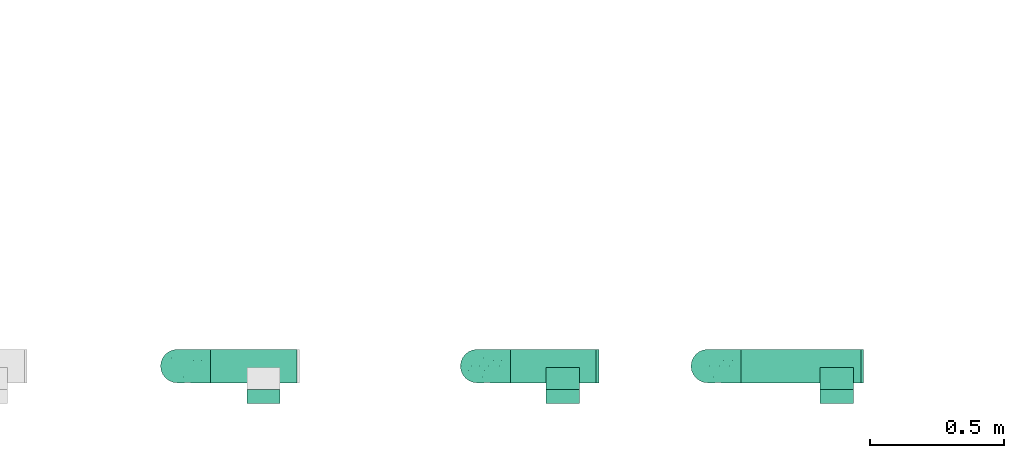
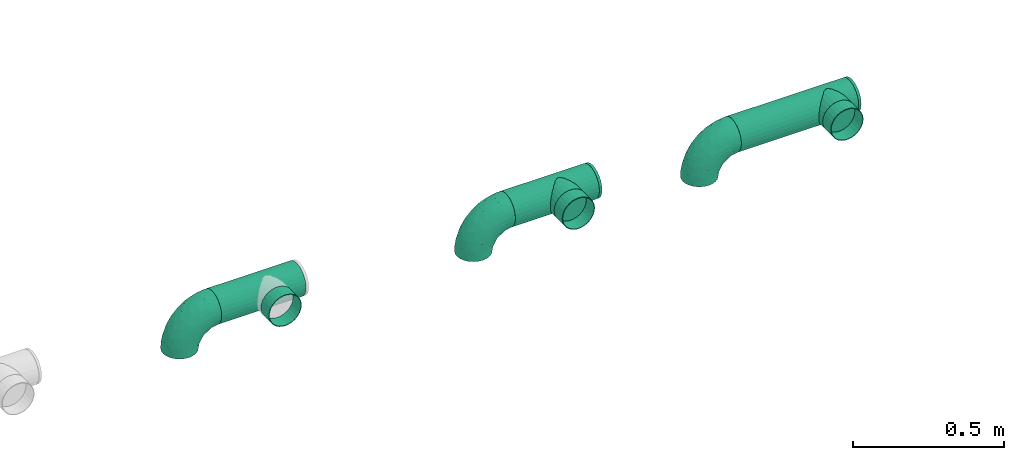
# One storey, part 7 of 63: 7 flow fittings, 6 flow segments.
"""IFC2X3 building model written with IfcOpenShell, lengths in millimetres."""

import ifcopenshell
import ifcopenshell.guid

model = None  # the IFC model being written
_history = None  # IfcOwnerHistory: only IFC2X3 demands one
_inside = {}  # id of a spatial element -> (the spatial element, [elements in it])
_under = {}  # id of a project, library or spatial element -> (it, [spatial elements below it])
_declared = {}  # id of a project -> (the project, [libraries it declares])
_typed = {}  # id of a type object -> (the type object, [elements of that type])
_made_of = {}  # id of a material, layer set ... -> (it, [elements and type objects made of it])


def new_model(schema):
    """Start an empty IFC model of exactly this schema.

    Asked for "IFC4X3", IfcOpenShell would pick the latest addendum, in which some entities
    have other attributes; the version numbers below select the first issue.
    IFC2X3 requires an IfcOwnerHistory on every rooted entity: one is made here for all.
    """
    global model, _history
    if schema == "IFC4X3":
        model = ifcopenshell.file(schema_version=(4, 3, 0, 0))
    else:
        model = ifcopenshell.file(schema=schema)
    _inside.clear()
    _under.clear()
    _declared.clear()
    _typed.clear()
    _made_of.clear()
    _history = None
    if model.schema == "IFC2X3":
        org = make("IfcOrganization", Name="unknown")
        user = make(
            "IfcPersonAndOrganization",
            ThePerson=make("IfcPerson", FamilyName="unknown"),
            TheOrganization=org,
        )
        app = make(
            "IfcApplication",
            ApplicationDeveloper=org,
            Version="unknown",
            ApplicationFullName="unknown",
            ApplicationIdentifier="unknown",
        )
        _history = make(
            "IfcOwnerHistory",
            OwningUser=user,
            OwningApplication=app,
            ChangeAction="ADDED",
            CreationDate=0,
        )
    return model


def make(cls, **values):
    """One entity of the class cls with the attributes given. An attribute that is None is left unset."""
    return model.create_entity(
        cls, **{name: value for name, value in values.items() if value is not None}
    )


def entity(cls, *values):
    """Any entity or typed value of the class cls, its attributes in the order of the schema. None: left unset."""
    e = model.create_entity(cls)
    for i, value in enumerate(values):
        if value is not None:
            e[i] = value
    return e


def rooted(cls, **values):
    """An entity with a GlobalId (a new one), such as an element, a storey or a relation."""
    return make(cls, GlobalId=ifcopenshell.guid.new(), OwnerHistory=_history, **values)


def si_unit(unit_type, name, prefix=None):
    """IfcSIUnit, for example si_unit("LENGTHUNIT", "METRE", prefix="MILLI")."""
    return make("IfcSIUnit", UnitType=unit_type, Prefix=prefix, Name=name)


def converted_unit(unit_type, name, factor, base, dimensions=None, offset=None):
    """IfcConversionBasedUnit, such as the inch: factor (a typed value) times the base unit."""
    return make(
        "IfcConversionBasedUnit"
        if offset is None
        else "IfcConversionBasedUnitWithOffset",
        ConversionOffset=offset,
        Dimensions=None
        if dimensions is None
        else entity("IfcDimensionalExponents", *dimensions),
        UnitType=unit_type,
        Name=name,
        ConversionFactor=make(
            "IfcMeasureWithUnit", ValueComponent=factor, UnitComponent=base
        ),
    )


def derived_unit(unit_type, elements):
    """IfcDerivedUnit: a product of units, each with its exponent."""
    return make(
        "IfcDerivedUnit",
        Elements=[
            make("IfcDerivedUnitElement", Unit=unit, Exponent=power)
            for unit, power in elements
        ],
        UnitType=unit_type,
    )


def assignment(units):
    """IfcUnitAssignment: the units of a project."""
    return None if units is None else make("IfcUnitAssignment", Units=units)


def point(xyz):
    """IfcCartesianPoint."""
    return None if xyz is None else make("IfcCartesianPoint", Coordinates=xyz)


def direction(xyz):
    """IfcDirection."""
    return None if xyz is None else make("IfcDirection", DirectionRatios=xyz)


def frame(location, z_axis=None, x_axis=None):
    """IfcAxis2Placement3D, a coordinate frame: its origin and axes. An axis left out is left unset."""
    return make(
        "IfcAxis2Placement3D",
        Location=point(location),
        Axis=direction(z_axis),
        RefDirection=direction(x_axis),
    )


def frame_2d(location, x_axis=None):
    """IfcAxis2Placement2D, a coordinate frame in the plane: its origin and x axis."""
    return make(
        "IfcAxis2Placement2D", Location=point(location), RefDirection=direction(x_axis)
    )


def origin_with_axes():
    """The frame at (0, 0, 0) with the z axis (0, 0, 1) and the x axis (1, 0, 0) written out."""
    return frame((0.0, 0.0, 0.0), z_axis=(0.0, 0.0, 1.0), x_axis=(1.0, 0.0, 0.0))


def origin_2d_with_axis():
    """The frame at (0, 0) in the plane with the x axis (1, 0) written out."""
    return frame_2d((0.0, 0.0), x_axis=(1.0, 0.0))


def place(relative_to, where):
    """IfcLocalPlacement: puts the frame where relative to a parent placement (None: the world)."""
    return make(
        "IfcLocalPlacement", PlacementRelTo=relative_to, RelativePlacement=where
    )


def context(
    kind, dimensions, precision=None, world=None, true_north=None, identifier=None
):
    """IfcGeometricRepresentationContext, for example the 3D "Model" context."""
    return make(
        "IfcGeometricRepresentationContext",
        ContextIdentifier=identifier,
        ContextType=kind,
        CoordinateSpaceDimension=dimensions,
        Precision=precision,
        WorldCoordinateSystem=world,
        TrueNorth=true_north,
    )


def subcontext(parent, identifier, kind, view, scale=None):
    """IfcGeometricRepresentationSubContext, for example "Body" below "Model"."""
    return make(
        "IfcGeometricRepresentationSubContext",
        ContextIdentifier=identifier,
        ContextType=kind,
        ParentContext=parent,
        TargetScale=scale,
        TargetView=view,
    )


def project(units=None, contexts=None):
    """IfcProject with its units and contexts."""
    return rooted(
        "IfcProject",
        Name="project",
        RepresentationContexts=contexts,
        UnitsInContext=assignment(units),
    )


def spatial(cls, under=None, at=None, **own):
    """A site, building, storey or space (cls), placed at a placement, below another one or the project."""
    s = rooted(cls, ObjectPlacement=at, **own)
    if under is not None:
        _under.setdefault(under.id(), (under, []))[1].append(s)
    return s


def profile(cls, at=None, kind="AREA", **sizes):
    """A parametric profile (cls). Its sizes go by their IFC names, for example OverallWidth=200.0."""
    return make(cls, ProfileType=kind, Position=at, **sizes)


def hollow_circle(**sizes):
    """IfcCircleHollowProfileDef."""
    return profile("IfcCircleHollowProfileDef", **sizes)


def extrude(swept, where, along, depth):
    """IfcExtrudedAreaSolid: the profile swept, set in the frame where, extruded along a direction by depth."""
    return make(
        "IfcExtrudedAreaSolid",
        SweptArea=swept,
        Position=where,
        ExtrudedDirection=direction(along),
        Depth=depth,
    )


def faces_of(points, faces, orient=None, outer=None):
    """IfcFace entities. A face is a list of loops; a loop is a list of indices into points, from 0.

    orient and outer hold one flag for each loop. By default every Orientation is true, the
    first loop of a face is its IfcFaceOuterBound and the others are IfcFaceBound.
    """
    made = []
    for i, loops in enumerate(faces):
        bounds = []
        for j, loop in enumerate(loops):
            is_outer = j == 0 if outer is None else outer[i][j]
            bounds.append(
                make(
                    "IfcFaceOuterBound" if is_outer else "IfcFaceBound",
                    Bound=make("IfcPolyLoop", Polygon=[points[k] for k in loop]),
                    Orientation=True if orient is None else orient[i][j],
                )
            )
        made.append(make("IfcFace", Bounds=bounds))
    return made


def open_shell(faces, orient=None, outer=None):
    """The faces of one IfcOpenShell. surface_model builds it on its shared points."""
    return ("IfcOpenShell", faces, orient, outer)


def surface_model(cls, points, shells):
    """IfcFaceBasedSurfaceModel or IfcShellBasedSurfaceModel (cls): surfaces that need not close."""
    shared = [point(p) for p in points]
    made = [make(c, CfsFaces=faces_of(shared, fs, o, b)) for c, fs, o, b in shells]
    if cls == "IfcFaceBasedSurfaceModel":
        return make(cls, FbsmFaces=made)
    return make(cls, SbsmBoundary=made)


def shape(context_of_items, identifier, shape_type, items):
    """IfcShapeRepresentation: the items that make up one representation, for example the "Body"."""
    return make(
        "IfcShapeRepresentation",
        ContextOfItems=context_of_items,
        RepresentationIdentifier=identifier,
        RepresentationType=shape_type,
        Items=items,
    )


def source(mapping_origin, context_of_items, identifier, shape_type, items):
    """IfcRepresentationMap: a shape defined once, which mapped items show again and again."""
    return make(
        "IfcRepresentationMap",
        MappingOrigin=mapping_origin,
        MappedRepresentation=shape(context_of_items, identifier, shape_type, items),
    )


def transform(
    local_origin,
    x_axis=None,
    y_axis=None,
    z_axis=None,
    scale=None,
    scale2=None,
    scale3=None,
    uniform=True,
):
    """IfcCartesianTransformationOperator3D, or its non-uniform kind. x_axis, y_axis, z_axis: its Axis1, 2, 3."""
    if uniform:
        return make(
            "IfcCartesianTransformationOperator3D",
            Axis1=direction(x_axis),
            Axis2=direction(y_axis),
            LocalOrigin=point(local_origin),
            Scale=scale,
            Axis3=direction(z_axis),
        )
    return make(
        "IfcCartesianTransformationOperator3DnonUniform",
        Axis1=direction(x_axis),
        Axis2=direction(y_axis),
        LocalOrigin=point(local_origin),
        Scale=scale,
        Axis3=direction(z_axis),
        Scale2=scale2,
        Scale3=scale3,
    )


def mapped(mapping_source, mapping_target):
    """IfcMappedItem: shows the shape of a source again, moved by a transform."""
    return make(
        "IfcMappedItem", MappingSource=mapping_source, MappingTarget=mapping_target
    )


def made_of(thing, what):
    """Note that an element or type object is made of a material, layer set ...; save() writes the relation."""
    if what is not None:
        _made_of.setdefault(what.id(), (what, []))[1].append(thing)
    return thing


def type_object(cls, material=None, **own):
    """A type object (cls), such as IfcWallType, which elements share."""
    return made_of(rooted(cls, **own), material)


def element(
    cls,
    number,
    at=None,
    inside=None,
    cuts=None,
    type_object=None,
    material=None,
    context=None,
    identifier="Body",
    shape_type=None,
    held_by="IfcProductDefinitionShape",
    body=None,
    shapes=None,
    **own,
):
    """One element of the class cls, such as IfcWall. Its Tag is "e" and its number.

    at: its placement. inside: the storey or other place that contains it. cuts: it is an
    opening in that element (IfcRelVoidsElement). A single representation is given by context,
    identifier, shape_type and body (its items); several are given by shapes. held_by: the class
    of the entity that holds the representations. save() writes the other relations.
    """
    e = rooted(cls, Tag="e%d" % number, ObjectPlacement=at, **own)
    if body is not None:
        shapes = [shape(context, identifier, shape_type, body)]
    if shapes is not None:
        e.Representation = make(held_by, Representations=shapes)
    if inside is not None:
        _inside.setdefault(inside.id(), (inside, []))[1].append(e)
    if cuts is not None:
        rooted(
            "IfcRelVoidsElement", RelatingBuildingElement=cuts, RelatedOpeningElement=e
        )
    if type_object is not None:
        _typed.setdefault(type_object.id(), (type_object, []))[1].append(e)
    return made_of(e, material)


def aggregate(whole, parts):
    """IfcRelAggregates: a whole, such as a stair, and the parts it consists of."""
    return rooted("IfcRelAggregates", RelatingObject=whole, RelatedObjects=parts)


def save(model, path):
    """Write the relations noted so far, then the file.

    IfcRelAggregates (storeys below a building ...), IfcRelContainedInSpatialStructure (elements
    in a storey), IfcRelDefinesByType, IfcRelAssociatesMaterial and IfcRelDeclares: one each for
    every whole, place, type object, material and project.
    """
    for whole, parts in _under.values():
        aggregate(whole, parts)
    for where, things in _inside.values():
        rooted(
            "IfcRelContainedInSpatialStructure",
            RelatedElements=things,
            RelatingStructure=where,
        )
    for kind, things in _typed.values():
        rooted("IfcRelDefinesByType", RelatedObjects=things, RelatingType=kind)
    for what, things in _made_of.values():
        rooted("IfcRelAssociatesMaterial", RelatedObjects=things, RelatingMaterial=what)
    for by, libraries in _declared.values():
        rooted("IfcRelDeclares", RelatingContext=by, RelatedDefinitions=libraries)
    model.write(path)


model = new_model("IFC2X3")

# Units and contexts
model_context = context("Model", 3, precision=0.01, world=frame((0.0, 4.29681676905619e-09, 0.0)), true_north=direction((4.01073788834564e-13, 1.0)))
plan_context = context("Plan", 3, precision=0.01, world=frame((0.0, 4.29681676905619e-09, 0.0)), true_north=direction((4.01073788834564e-13, 1.0)))
body_context = subcontext(model_context, "Body", "Model", "MODEL_VIEW")
ifc_project = project(units=[converted_unit("PLANEANGLEUNIT", "DEGREE", entity("IfcPositiveLengthMeasure", 0.0174532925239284), si_unit("PLANEANGLEUNIT", "RADIAN"), dimensions=[0, 0, 0, 0, 0, 0, 0]), si_unit("AREAUNIT", "SQUARE_METRE"), si_unit("LENGTHUNIT", "METRE", prefix="MILLI"), si_unit("MASSUNIT", "GRAM", prefix="KILO"), si_unit("POWERUNIT", "WATT"), si_unit("PRESSUREUNIT", "PASCAL"), si_unit("FORCEUNIT", "NEWTON", prefix="KILO"), si_unit("ELECTRICVOLTAGEUNIT", "VOLT"), si_unit("ELECTRICCURRENTUNIT", "AMPERE"), si_unit("THERMODYNAMICTEMPERATUREUNIT", "DEGREE_CELSIUS"), si_unit("TIMEUNIT", "SECOND"), si_unit("VOLUMEUNIT", "CUBIC_METRE"), derived_unit("LINEARVELOCITYUNIT", [(si_unit("LENGTHUNIT", "METRE"), 1), (si_unit("TIMEUNIT", "SECOND"), -1)]), derived_unit("VOLUMETRICFLOWRATEUNIT", [(si_unit("VOLUMEUNIT", "CUBIC_METRE"), 1), (si_unit("TIMEUNIT", "SECOND"), -1)]), derived_unit("THERMALTRANSMITTANCEUNIT", [(si_unit("POWERUNIT", "WATT"), 1), (si_unit("THERMODYNAMICTEMPERATUREUNIT", "KELVIN"), -1), (si_unit("AREAUNIT", "SQUARE_METRE"), -1)]), derived_unit("SOUNDPRESSUREUNIT", [(si_unit("PRESSUREUNIT", "PASCAL"), 1)])], contexts=[model_context, plan_context])

# Site, building, storey
site_placement = place(None, frame((0.0, -4.29681676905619e-09, 0.0), z_axis=(0.0, 0.0, 1.0), x_axis=(1.0, 0.0, 0.0)))
site = spatial("IfcSite", under=ifc_project, at=site_placement, CompositionType="ELEMENT")
building_placement = place(site_placement, frame((0.0, 4.29681676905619e-09, 0.0), z_axis=(0.0, 0.0, 1.0), x_axis=(1.0, 0.0, 0.0)))
building = spatial("IfcBuilding", under=site, at=building_placement, Name="mc-building", CompositionType="ELEMENT")
storey_placement = place(building_placement, frame((0.0, 0.0, 210900.0), z_axis=(0.0, 0.0, 1.0), x_axis=(1.0, 0.0, 0.0)))
storey = spatial("IfcBuildingStorey", under=building, at=storey_placement, Name="Nivå F", CompositionType="ELEMENT", Elevation=210900.0)

# Flow fittings
duct_fitting_type_1 = type_object("IfcDuctFittingType", Name="magicirc_elbow_full_radius_001", PredefinedType="BEND")
shared_shape_1 = source(origin_with_axes(), body_context, "Body", "SurfaceModel", [
    surface_model("IfcShellBasedSurfaceModel", [(-125.0, 16.17619, -60.37037), (-125.0, 0.0, -62.5), (-125.0, 44.19417, -44.19417), (-125.0, 31.25, -54.12659), (-125.0, 60.37037, -16.17619), (-125.0, 54.12659, -31.25), (-125.0, -16.17619, -60.37037), (-125.0, -31.25, -54.12659), (-125.0, -44.19417, -44.19417), (-125.0, -54.12659, -31.25), (-125.0, -60.37037, -16.17619), (-125.0, -62.5, 0.0), (-125.0, 62.5, 0.0), (-125.0, -31.25, 54.12659), (-125.0, 60.37037, 16.17619), (-125.0, 54.12659, 31.25), (-125.0, 16.17619, 60.37037), (-125.0, 31.25, 54.12659), (-125.0, 44.19417, 44.19417), (-125.0, -54.12659, 31.25), (-125.0, -44.19417, 44.19417), (-125.0, -60.37037, 16.17619), (-125.0, -16.17619, 60.37037), (-125.0, 0.0, 62.5), (-44.19417, 125.0, -44.19417), (0.0, 125.0, -62.5), (-16.17619, 125.0, -60.37037), (-31.25, 125.0, -54.12659), (-54.12659, 125.0, -31.25), (-60.37037, 125.0, -16.17619), (16.17619, 125.0, -60.37037), (44.19417, 125.0, -44.19417), (31.25, 125.0, -54.12659), (60.37037, 125.0, -16.17619), (54.12659, 125.0, -31.25), (62.5, 125.0, 0.0), (44.19417, 125.0, 44.19417), (31.25, 125.0, 54.12659), (-62.5, 125.0, 0.0), (-60.37037, 125.0, 16.17619), (-54.12659, 125.0, 31.25), (-16.17619, 125.0, 60.37037), (-44.19417, 125.0, 44.19417), (-31.25, 125.0, 54.12659), (60.37037, 125.0, 16.17619), (54.12659, 125.0, 31.25), (0.0, 125.0, 62.5), (16.17619, 125.0, 60.37037), (-92.0149, -48.59662, 35.11543), (-82.31101, -36.10079, 46.59002), (-83.27732, -57.79898, 0.0), (21.5934, 8.09566, 0.0), (6.68953, -6.68953, 12.50062), (-8.09566, -21.5934, 0.0), (-85.18285, -54.95352, 19.72452), (-63.86862, 108.10791, 10.69753), (-72.65264, 88.16475, 13.64847), (-58.85933, 108.47697, 26.01876), (28.68805, 50.93011, 42.73586), (15.24994, 48.30376, 51.88115), (13.33611, 22.15566, 40.76355), (-28.58034, -33.18174, 16.61251), (-55.80927, -40.00167, 31.60254), (-55.92901, -46.21073, 18.75923), (-43.6468, -43.93166, 0.0), (-11.16429, 11.16428, 51.09905), (-91.91541, -23.64007, 56.2333), (-48.30376, -15.24994, 51.88115), (-62.2246, -0.56088, 60.57833), (-86.05221, 71.09173, 22.01563), (-76.29757, 73.71528, 30.99181), (-95.48, -8.27954, 61.43109), (-21.72166, 61.46244, 62.38786), (-46.29465, 46.29465, 60.98138), (-37.21568, 27.31198, 62.17805), (-96.3442, 24.51222, 59.0402), (-23.33012, 107.80836, 58.54242), (-8.56588, 93.49118, 62.34649), (-87.52028, 9.58041, 62.39347), (-90.8433, 62.14568, 32.36992), (-104.65631, 61.64741, 22.10298), (-108.67612, 63.76169, 10.43133), (-88.81041, 72.98575, 10.36437), (36.10079, 82.31101, 46.59002), (-22.15566, -13.33612, 40.76355), (-97.70214, 52.10141, 41.01675), (33.18174, 28.58034, 16.61251), (43.93166, 43.6468, 0.0), (-108.13323, 37.84893, 50.9265), (-16.31425, 41.86087, 61.36861), (-31.05498, 11.46575, 58.36241), (-6.38494, 33.76703, 57.43674), (23.64007, 91.91541, 56.2333), (8.27954, 95.48, 61.43109), (40.00167, 55.80927, 31.60254), (47.31258, 55.33607, 14.21495), (57.79898, 83.27732, 0.0), (54.95352, 85.18285, 19.72452), (48.59662, 92.0149, 35.11543), (-51.08394, 80.06201, 49.23756), (-51.34965, 100.68876, 40.68918), (-65.88145, 69.79931, 44.27158), (-67.25753, 101.08228, 0.0), (-66.7509, 56.0836, 51.93913), (-47.27423, 67.56375, 55.69769), (-80.80582, 80.80582, 0.0), (-101.08228, 67.25753, 0.0), (-27.0301, 84.68903, 59.52251), (-39.49549, 96.79785, 51.80473), (-4.68934, 4.68934, 43.22247), (2.91368, -2.91368, 27.95973), (-68.67967, 26.77168, 61.38152), (-61.32894, 15.31518, 62.47333), (-66.44476, 42.40788, 57.80884), (-86.06534, 42.42608, 52.63144), (-36.4073, 64.87811, 59.87196), (0.56088, 62.2246, 60.57833), (-50.92891, -28.66756, 42.755), (-64.50927, 88.5041, 30.85553), (-27.43118, -26.16339, 29.83954), (22.73426, 21.43212, 28.89237), (-90.73911, 40.97988, -52.27133), (-51.05944, -15.77315, -52.43613), (-54.27147, -0.77962, -59.44482), (-25.11169, -1.04586, -51.21226), (-98.94229, 7.90272, -62.29658), (-67.16143, 94.52638, -18.73917), (-96.1712, 24.53976, -59.04752), (-57.8841, 72.64103, -48.12601), (-44.50916, 76.42373, -54.27754), (-57.76281, 57.76281, -54.8772), (-107.28047, 64.03146, -11.08737), (-59.60363, -46.85882, -20.9596), (-91.17795, -55.95169, -20.37554), (-87.70528, 72.36167, -15.72738), (37.33987, 90.42119, -47.18844), (21.5694, 79.15007, -55.58604), (24.6394, 105.55614, -56.88213), (-98.81833, 51.80612, -40.89409), (-75.37655, 57.2746, -47.13743), (-29.56225, -32.61603, -19.86672), (2.63114, 29.35884, -52.12213), (-22.06401, 22.064, -59.01679), (-105.22465, -49.75349, -36.31269), (-39.22852, 98.11971, -51.7028), (-25.51302, 90.93127, -59.26694), (7.06321, 14.54725, -41.00964), (25.49531, 46.66577, -43.72165), (20.99941, 20.9078, -30.93535), (-90.42119, -37.33987, -47.18844), (-47.40462, -35.90659, -32.07933), (-105.55614, -24.6394, -56.88213), (0.77962, 54.27147, -59.44482), (12.91756, 53.35696, -54.59988), (7.88048, 92.08251, -61.35725), (-79.15007, -21.5694, -55.58604), (-92.08251, -7.88048, -61.35725), (-78.52964, -46.34869, -33.8522), (-68.20954, -28.53784, -49.07387), (46.34869, 78.52964, -33.8522), (46.85882, 59.60363, -20.9596), (35.90659, 47.40462, -32.07933), (-75.95077, 74.3101, -30.65772), (-100.92719, 60.72326, -27.00798), (2.91558, -2.91558, -27.95435), (6.69001, -6.69001, -12.49729), (32.61603, 29.56225, -19.86672), (-54.06785, 91.48679, -41.70621), (-58.74822, 101.55878, -30.19257), (-7.90272, 98.94229, -62.29658), (49.75349, 105.22465, -36.31269), (-14.77484, 68.85348, -62.48651), (-33.7955, 36.46996, -62.46452), (-36.98162, 59.24998, -60.63975), (55.95169, 91.17795, -20.37554), (-61.70769, 36.16979, -60.43635), (-23.35082, -23.18253, -30.24249), (-68.85348, 14.77484, -62.48651), (-16.60827, -10.64436, -39.25753), (-46.66577, -25.49531, -43.72165), (-69.70063, 70.78468, -40.55271)], [open_shell([[[0, 1, 2]], [[3, 0, 2]], [[4, 5, 2]], [[6, 2, 1]], [[4, 2, 6]], [[7, 8, 6]], [[8, 4, 6]], [[9, 10, 8]], [[11, 8, 10]], [[8, 11, 4]], [[11, 12, 4]], [[12, 13, 14]], [[15, 14, 16]], [[16, 17, 18]], [[15, 16, 18]], [[16, 14, 13]], [[19, 20, 21]], [[21, 20, 11]], [[22, 23, 13]], [[20, 13, 11]], [[13, 23, 16]], [[13, 12, 11]], [[24, 25, 26]], [[24, 26, 27]], [[24, 28, 29]], [[25, 24, 30]], [[30, 24, 29]], [[30, 31, 32]], [[30, 29, 31]], [[31, 33, 34]], [[33, 31, 35]], [[31, 36, 35]], [[31, 29, 37]], [[38, 39, 40]], [[38, 40, 41]], [[42, 43, 41]], [[42, 41, 40]], [[38, 41, 37]], [[44, 36, 45]], [[35, 36, 44]], [[37, 46, 47]], [[31, 37, 36]], [[41, 46, 37]], [[29, 38, 37]], [[20, 48, 49]], [[21, 11, 50]], [[51, 52, 53]], [[54, 19, 21]], [[50, 54, 21]], [[55, 56, 57]], [[19, 48, 20]], [[58, 59, 60]], [[61, 62, 63]], [[61, 63, 64]], [[20, 49, 13]], [[61, 64, 53]], [[65, 60, 59]], [[66, 67, 68]], [[56, 69, 70]], [[71, 23, 22]], [[72, 73, 74]], [[17, 16, 75]], [[66, 13, 49]], [[41, 76, 77]], [[23, 78, 16]], [[15, 79, 80]], [[81, 12, 14]], [[69, 82, 81]], [[83, 36, 37]], [[65, 67, 84]], [[18, 85, 15]], [[86, 51, 87]], [[18, 17, 88]], [[89, 90, 91]], [[83, 37, 92]], [[69, 81, 80]], [[93, 47, 46]], [[94, 86, 95]], [[96, 97, 95]], [[96, 44, 97]], [[98, 97, 45]], [[46, 41, 77]], [[63, 50, 64]], [[44, 45, 97]], [[83, 94, 98]], [[45, 36, 98]], [[99, 100, 101]], [[55, 102, 56]], [[39, 57, 40]], [[44, 96, 35]], [[48, 54, 62]], [[79, 70, 69]], [[99, 103, 104]], [[38, 102, 55]], [[23, 71, 78]], [[56, 105, 82]], [[18, 88, 85]], [[102, 105, 56]], [[92, 37, 47]], [[57, 100, 40]], [[82, 105, 106]], [[107, 108, 104]], [[109, 110, 60]], [[107, 72, 77]], [[13, 66, 22]], [[108, 107, 76]], [[76, 41, 43]], [[43, 42, 108]], [[83, 92, 59]], [[95, 86, 87]], [[111, 112, 74]], [[75, 16, 78]], [[113, 75, 111]], [[103, 85, 114]], [[80, 79, 69]], [[100, 42, 40]], [[115, 104, 73]], [[107, 115, 72]], [[93, 77, 116]], [[67, 66, 49]], [[71, 66, 68]], [[67, 117, 84]], [[67, 65, 90]], [[93, 92, 47]], [[116, 91, 59]], [[116, 59, 92]], [[109, 60, 65]], [[54, 48, 19]], [[49, 48, 62]], [[83, 98, 36]], [[97, 98, 94]], [[111, 75, 78]], [[88, 75, 114]], [[81, 82, 106]], [[56, 82, 69]], [[12, 81, 106]], [[81, 14, 80]], [[14, 15, 80]], [[79, 15, 85]], [[85, 101, 79]], [[70, 101, 118]], [[108, 99, 104]], [[113, 103, 114]], [[111, 74, 73]], [[116, 77, 72]], [[90, 74, 68]], [[72, 74, 89]], [[77, 93, 46]], [[92, 93, 116]], [[66, 71, 22]], [[78, 71, 68]], [[101, 100, 118]], [[108, 42, 100]], [[52, 61, 53]], [[119, 110, 84]], [[94, 58, 120]], [[86, 120, 52]], [[117, 67, 49]], [[61, 119, 62]], [[120, 60, 110]], [[83, 58, 94]], [[111, 78, 112]], [[113, 111, 73]], [[104, 113, 73]], [[75, 113, 114]], [[104, 103, 113]], [[85, 103, 101]], [[78, 68, 112]], [[68, 74, 112]], [[101, 70, 79]], [[56, 70, 118]], [[67, 90, 68]], [[91, 90, 65]], [[59, 91, 65]], [[89, 91, 116]], [[72, 89, 116]], [[90, 89, 74]], [[57, 56, 118]], [[38, 55, 39]], [[86, 52, 51]], [[61, 52, 110]], [[75, 88, 17]], [[85, 88, 114]], [[108, 76, 43]], [[77, 76, 107]], [[55, 57, 39]], [[100, 57, 118]], [[72, 115, 73]], [[107, 104, 115]], [[100, 99, 108]], [[103, 99, 101]], [[62, 54, 63]], [[63, 54, 50]], [[96, 95, 87]], [[94, 95, 97]], [[49, 62, 117]], [[119, 117, 62]], [[110, 119, 61]], [[117, 119, 84]], [[65, 84, 109]], [[110, 109, 84]], [[52, 120, 110]], [[94, 120, 86]], [[59, 58, 83]], [[120, 58, 60]], [[2, 121, 3]], [[122, 123, 124]], [[1, 0, 125]], [[126, 102, 38]], [[3, 127, 0]], [[128, 129, 130]], [[106, 131, 12]], [[132, 50, 133]], [[106, 134, 131]], [[135, 136, 137]], [[138, 139, 121]], [[64, 140, 53]], [[141, 124, 142]], [[121, 2, 138]], [[133, 9, 143]], [[144, 27, 145]], [[50, 11, 10]], [[146, 147, 148]], [[149, 8, 7]], [[140, 132, 150]], [[151, 149, 7]], [[141, 152, 153]], [[30, 154, 25]], [[133, 10, 9]], [[143, 9, 8]], [[155, 156, 123]], [[157, 149, 158]], [[7, 6, 151]], [[156, 6, 1]], [[159, 160, 161]], [[105, 134, 106]], [[64, 50, 132]], [[126, 162, 134]], [[138, 163, 162]], [[29, 126, 38]], [[140, 164, 165]], [[166, 87, 51]], [[167, 168, 28]], [[162, 126, 168]], [[32, 31, 135]], [[154, 30, 137]], [[26, 169, 145]], [[127, 3, 121]], [[169, 26, 25]], [[31, 34, 170]], [[27, 144, 24]], [[26, 145, 27]], [[30, 32, 137]], [[87, 166, 160]], [[165, 166, 51]], [[171, 172, 173]], [[142, 152, 141]], [[165, 51, 53]], [[156, 155, 151]], [[136, 135, 147]], [[34, 33, 174]], [[35, 96, 33]], [[175, 127, 121]], [[2, 5, 138]], [[174, 159, 170]], [[176, 140, 150]], [[171, 154, 152]], [[126, 105, 102]], [[28, 24, 167]], [[173, 145, 171]], [[131, 163, 4]], [[128, 144, 129]], [[139, 128, 130]], [[174, 160, 159]], [[170, 135, 31]], [[147, 135, 159]], [[152, 154, 136]], [[169, 154, 171]], [[153, 147, 141]], [[152, 142, 172]], [[33, 96, 174]], [[160, 96, 87]], [[155, 122, 158]], [[143, 149, 157]], [[125, 156, 1]], [[177, 172, 123]], [[177, 123, 156]], [[123, 142, 124]], [[133, 157, 132]], [[50, 10, 133]], [[126, 134, 105]], [[168, 29, 28]], [[163, 5, 4]], [[121, 139, 130]], [[175, 121, 130]], [[125, 127, 177]], [[145, 173, 129]], [[167, 24, 144]], [[147, 146, 141]], [[178, 124, 146]], [[124, 141, 146]], [[124, 179, 122]], [[162, 163, 134]], [[138, 5, 163]], [[127, 125, 0]], [[156, 125, 177]], [[154, 169, 25]], [[145, 169, 171]], [[147, 161, 148]], [[146, 164, 178]], [[176, 164, 140]], [[124, 178, 179]], [[171, 152, 172]], [[175, 130, 173]], [[123, 172, 142]], [[175, 172, 177]], [[172, 175, 173]], [[127, 175, 177]], [[162, 180, 138]], [[180, 167, 128]], [[160, 174, 96]], [[161, 160, 166]], [[161, 166, 148]], [[147, 159, 161]], [[166, 164, 148]], [[164, 146, 148]], [[150, 132, 157]], [[64, 132, 140]], [[157, 179, 150]], [[176, 179, 178]], [[180, 128, 139]], [[144, 128, 167]], [[145, 129, 144]], [[173, 130, 129]], [[138, 180, 139]], [[167, 180, 162]], [[179, 176, 150]], [[164, 176, 178]], [[140, 165, 53]], [[166, 165, 164]], [[163, 131, 134]], [[12, 131, 4]], [[135, 137, 32]], [[154, 137, 136]], [[174, 170, 34]], [[135, 170, 159]], [[156, 151, 6]], [[149, 151, 155]], [[149, 143, 8]], [[133, 143, 157]], [[162, 168, 167]], [[29, 168, 126]], [[152, 136, 153]], [[147, 153, 136]], [[158, 122, 179]], [[123, 122, 155]], [[157, 158, 179]], [[155, 158, 149]]])]),
])
for number, where, z_axis, x_axis, name in (
    (1, (528204.23125, 440892.96265, 2163.0), (0.0, -1.0, 0.0), (-1.0, 0.0, 0.0), "magicirc_elbow_full_radius_001"),
    (2, (526219.16875, 440892.96265, 2163.0), (0.0, -1.0, 0.0), (-1.0, 0.0, 0.0), "magicirc_elbow_full_radius_001"),
    (3, (527341.16875, 440892.96265, 2163.0), (0.0, -1.0, 0.0), (-1.0, 0.0, 0.0), "magicirc_elbow_full_radius_001"),
):
    element("IfcFlowFitting", number, at=place(storey_placement, frame(where, z_axis=z_axis, x_axis=x_axis)), inside=storey, type_object=duct_fitting_type_1, Name=name, context=body_context, shape_type="MappedRepresentation", body=[
        mapped(shared_shape_1, transform((0.0, 0.0, 0.0), scale=1.0)),
    ])
duct_fitting_type_2 = type_object("IfcDuctFittingType", Name="magicirc_tapoutlet_001", PredefinedType="CONNECTOR")
shared_shape_2 = source(origin_with_axes(), body_context, "Body", "SurfaceModel", [
    surface_model("IfcShellBasedSurfaceModel", [(25.0, 0.0, -62.5), (25.0, -31.25, -54.12659), (25.0, -16.17619, -60.37037), (25.0, 44.19417, -44.19417), (25.0, 62.5, 0.0), (25.0, 31.25, -54.12659), (25.0, 54.12659, -31.25), (25.0, -62.5, 0.0), (25.0, -60.37037, -16.17619), (25.0, -60.37037, 16.17619), (25.0, 16.17619, -60.37037), (25.0, -44.19417, -44.19417), (25.0, -54.12659, -31.25), (25.0, 60.37037, -16.17619), (25.0, 60.37037, 16.17619), (25.0, 54.12659, 31.25), (25.0, 44.19417, 44.19417), (25.0, 31.25, 54.12659), (25.0, 0.0, 62.5), (25.0, 16.17619, 60.37037), (25.0, -44.19417, 44.19417), (25.0, -54.12659, 31.25), (25.0, -16.17619, 60.37037), (25.0, -31.25, 54.12659), (0.0, 0.0, 62.5), (0.0, 16.17619, 60.37037), (0.0, 31.25, 54.12659), (0.0, 44.19417, 44.19417), (0.0, 54.12659, 31.25), (0.0, 60.37037, 16.17619), (0.0, 62.5, 0.0), (0.0, 60.37037, -16.17619), (0.0, 54.12659, -31.25), (0.0, 44.19417, -44.19417), (0.0, 31.25, -54.12659), (0.0, 16.17619, -60.37037), (0.0, 0.0, -62.5), (0.0, -16.17619, -60.37037), (0.0, -31.25, -54.12659), (0.0, -44.19417, -44.19417), (0.0, -54.12659, -31.25), (0.0, -60.37037, -16.17619), (0.0, -62.5, 0.0), (0.0, -60.37037, 16.17619), (0.0, -54.12659, 31.25), (0.0, -44.19417, 44.19417), (0.0, -31.25, 54.12659), (0.0, -16.17619, 60.37037), (-56.404, -44.19417, -44.19417), (-56.404, -54.12659, -31.25), (-56.404, -62.5, 0.0), (-56.404, -31.25, -54.12659), (-56.404, 0.0, -62.5), (-56.404, 62.5, 0.0), (-56.404, 60.37037, -16.17619), (-56.404, 60.37037, 16.17619), (-56.404, -16.17619, -60.37037), (-56.404, 16.17619, -60.37037), (-56.404, 31.25, -54.12659), (-56.404, 44.19417, -44.19417), (-56.404, 54.12659, -31.25), (-56.404, -60.37037, 16.17619), (-56.404, -60.37037, -16.17619), (-56.404, 54.12659, 31.25), (-56.404, 44.19417, 44.19417), (-56.404, 16.17619, 60.37037), (-56.404, 31.25, 54.12659), (-56.404, -16.17619, 60.37037), (-56.404, -54.12659, 31.25), (-56.404, -44.19417, 44.19417), (-56.404, -31.25, 54.12659), (-56.404, 0.0, 62.5)], [open_shell([[[0, 1, 2]], [[3, 4, 5]], [[3, 6, 4]], [[7, 8, 9]], [[10, 4, 0]], [[5, 4, 10]], [[11, 0, 9]], [[0, 11, 1]], [[1, 2, 0]], [[12, 9, 8]], [[9, 12, 11]], [[8, 9, 7]], [[4, 6, 13]], [[14, 15, 0]], [[0, 15, 16]], [[0, 17, 18]], [[16, 17, 0]], [[17, 19, 18]], [[0, 20, 21]], [[21, 9, 0]], [[22, 23, 0]], [[23, 20, 0]], [[22, 0, 18]], [[4, 14, 0]], [[24, 18, 19]], [[25, 19, 17]], [[24, 19, 25]], [[26, 16, 27]], [[26, 25, 17]], [[16, 26, 17]], [[28, 15, 14]], [[29, 14, 4]], [[27, 15, 28]], [[29, 28, 14]], [[30, 29, 4]], [[15, 27, 16]], [[30, 4, 13]], [[31, 13, 6]], [[30, 13, 31]], [[32, 3, 33]], [[32, 31, 6]], [[3, 32, 6]], [[34, 5, 10]], [[35, 10, 0]], [[33, 5, 34]], [[35, 34, 10]], [[36, 35, 0]], [[5, 33, 3]], [[36, 0, 2]], [[37, 2, 1]], [[36, 2, 37]], [[38, 11, 39]], [[38, 37, 1]], [[11, 38, 1]], [[40, 12, 8]], [[41, 8, 7]], [[39, 12, 40]], [[41, 40, 8]], [[42, 41, 7]], [[12, 39, 11]], [[42, 7, 9]], [[43, 9, 21]], [[42, 9, 43]], [[44, 20, 45]], [[44, 43, 21]], [[20, 44, 21]], [[46, 23, 22]], [[47, 22, 18]], [[45, 23, 46]], [[47, 46, 22]], [[24, 47, 18]], [[23, 45, 20]], [[15, 0, 14]], [[15, 16, 0]], [[0, 16, 17]], [[18, 17, 19]], [[9, 0, 21]], [[0, 23, 20]], [[18, 22, 0]], [[14, 0, 4]], [[48, 49, 50]], [[48, 50, 51]], [[36, 37, 52]], [[52, 35, 36]], [[53, 54, 55]], [[52, 56, 57]], [[57, 55, 58]], [[59, 55, 60]], [[58, 55, 59]], [[57, 50, 61]], [[56, 51, 50]], [[62, 50, 49]], [[50, 57, 56]], [[54, 60, 55]], [[55, 57, 63]], [[64, 63, 57]], [[57, 65, 66]], [[57, 66, 64]], [[57, 67, 65]], [[68, 69, 57]], [[57, 61, 68]], [[69, 70, 57]], [[57, 70, 67]], [[67, 71, 65]], [[71, 24, 25]], [[66, 25, 26]], [[71, 25, 65]], [[65, 25, 66]], [[26, 64, 66]], [[26, 27, 64]], [[55, 28, 29]], [[53, 29, 30]], [[27, 63, 64]], [[27, 28, 63]], [[63, 28, 55]], [[29, 53, 55]], [[54, 30, 31]], [[60, 31, 32]], [[53, 30, 54]], [[54, 31, 60]], [[32, 59, 60]], [[32, 33, 59]], [[57, 34, 35]], [[33, 58, 59]], [[33, 34, 58]], [[58, 34, 57]], [[35, 52, 57]], [[37, 38, 51]], [[52, 37, 56]], [[48, 51, 38]], [[37, 51, 56]], [[38, 39, 48]], [[62, 40, 41]], [[50, 41, 42]], [[39, 49, 48]], [[39, 40, 49]], [[49, 40, 62]], [[41, 50, 62]], [[43, 44, 68]], [[42, 43, 61]], [[61, 50, 42]], [[68, 61, 43]], [[44, 69, 68]], [[44, 45, 69]], [[67, 46, 47]], [[71, 47, 24]], [[45, 70, 69]], [[45, 46, 70]], [[70, 46, 67]], [[47, 71, 67]], [[57, 63, 55]], [[57, 64, 63]], [[66, 57, 65]], [[66, 64, 57]], [[65, 57, 67]], [[68, 57, 61]]])]),
])
for number, where, z_axis, x_axis, name in (
    (4, (528687.42563, 440830.46265, 2163.0), (0.0, 0.0, -1.0), (0.0, -1.0, 0.0), "magicirc_tapoutlet_001"),
    (5, (527661.94464, 440830.46265, 2163.0), (0.0, 0.0, -1.0), (0.0, -1.0, 0.0), "magicirc_tapoutlet_001"),
):
    element("IfcFlowFitting", number, at=place(storey_placement, frame(where, z_axis=z_axis, x_axis=x_axis)), inside=storey, type_object=duct_fitting_type_2, Name=name, context=body_context, shape_type="MappedRepresentation", body=[
        mapped(shared_shape_2, transform((0.0, 0.0, 0.0), scale=1.0)),
    ])
duct_fitting_type_3 = type_object("IfcDuctFittingType", Name="magicirc_plug_001", PredefinedType="OBSTRUCTION")
shared_shape_3 = source(origin_with_axes(), body_context, "Body", "SurfaceModel", [
    surface_model("IfcShellBasedSurfaceModel", [(0.0, 0.0, -62.5), (0.0, -16.17619, -60.37037), (0.0, 16.17619, -60.37037), (0.0, 31.25, -54.12659), (0.0, 54.12659, -31.25), (0.0, 44.19417, -44.19417), (0.0, 60.37037, -16.17619), (0.0, -31.25, -54.12659), (0.0, -44.19417, -44.19417), (0.0, -62.5, 0.0), (0.0, -54.12659, -31.25), (0.0, -60.37037, -16.17619), (0.0, 62.5, 0.0), (0.0, 60.37037, 16.17619), (0.0, 44.19417, 44.19417), (0.0, 54.12659, 31.25), (0.0, 31.25, 54.12659), (0.0, -54.12659, 31.25), (0.0, -16.17619, 60.37037), (0.0, 16.17619, 60.37037), (0.0, -44.19417, 44.19417), (0.0, -31.25, 54.12659), (0.0, -60.37037, 16.17619), (0.0, 0.0, 62.5), (10.0, 16.17619, -60.37037), (10.0, -16.17619, -60.37037), (10.0, 0.0, -62.5), (10.0, 44.19417, -44.19417), (10.0, 31.25, -54.12659), (10.0, 54.12659, -31.25), (10.0, 60.37037, -16.17619), (10.0, -44.19417, -44.19417), (10.0, -31.25, -54.12659), (10.0, -62.5, 0.0), (10.0, -60.37037, -16.17619), (10.0, -54.12659, -31.25), (10.0, -54.12659, 31.25), (10.0, 44.19417, 44.19417), (10.0, 62.5, 0.0), (10.0, 60.37037, 16.17619), (10.0, 54.12659, 31.25), (10.0, 31.25, 54.12659), (10.0, 16.17619, 60.37037), (10.0, -16.17619, 60.37037), (10.0, -31.25, 54.12659), (10.0, -44.19417, 44.19417), (10.0, -60.37037, 16.17619), (10.0, 0.0, 62.5)], [open_shell([[[0, 1, 2]], [[3, 2, 4]], [[4, 2, 1]], [[5, 3, 4]], [[6, 4, 1]], [[7, 8, 1]], [[9, 1, 8]], [[10, 11, 8]], [[9, 8, 11]], [[9, 6, 1]], [[9, 12, 6]], [[13, 12, 14]], [[15, 13, 14]], [[16, 14, 17]], [[9, 17, 14]], [[16, 18, 19]], [[20, 21, 17]], [[17, 9, 22]], [[21, 18, 17]], [[17, 18, 16]], [[18, 23, 19]], [[14, 12, 9]], [[24, 25, 26]], [[27, 24, 28]], [[25, 24, 29]], [[29, 24, 27]], [[25, 29, 30]], [[25, 31, 32]], [[31, 25, 33]], [[31, 34, 35]], [[34, 31, 33]], [[25, 30, 33]], [[30, 36, 33]], [[37, 38, 39]], [[37, 39, 40]], [[37, 41, 42]], [[38, 37, 43]], [[43, 37, 42]], [[36, 44, 45]], [[46, 33, 36]], [[38, 44, 36]], [[43, 44, 38]], [[42, 47, 43]], [[36, 30, 38]], [[46, 9, 33]], [[36, 22, 46]], [[20, 45, 44]], [[36, 45, 17]], [[21, 44, 43]], [[36, 17, 22]], [[22, 9, 46]], [[18, 47, 23]], [[18, 21, 43]], [[20, 44, 21]], [[20, 17, 45]], [[47, 18, 43]], [[41, 19, 42]], [[37, 16, 41]], [[15, 40, 39]], [[37, 40, 14]], [[13, 39, 38]], [[41, 16, 19]], [[19, 23, 42]], [[13, 15, 39]], [[14, 40, 15]], [[14, 16, 37]], [[12, 13, 38]], [[42, 23, 47]], [[30, 12, 38]], [[29, 6, 30]], [[5, 27, 28]], [[29, 27, 4]], [[3, 28, 24]], [[29, 4, 6]], [[6, 12, 30]], [[2, 26, 0]], [[2, 3, 24]], [[5, 28, 3]], [[5, 4, 27]], [[26, 2, 24]], [[32, 1, 25]], [[31, 7, 32]], [[10, 35, 34]], [[31, 35, 8]], [[11, 34, 33]], [[32, 7, 1]], [[1, 0, 25]], [[11, 10, 34]], [[8, 35, 10]], [[8, 7, 31]], [[9, 11, 33]], [[25, 0, 26]]])]),
])
for number, where, z_axis, x_axis, name in (
    (6, (528776.94484, 440892.96265, 2163.0), (0.0, 0.0, 1.0), (1.0, 0.0, 0.0), "magicirc_plug_001"),
    (7, (527786.94497, 440892.96265, 2163.0), (0.0, 0.0, 1.0), (1.0, 0.0, 0.0), "magicirc_plug_001"),
):
    element("IfcFlowFitting", number, at=place(storey_placement, frame(where, z_axis=z_axis, x_axis=x_axis)), inside=storey, type_object=duct_fitting_type_3, Name=name, context=body_context, shape_type="MappedRepresentation", body=[
        mapped(shared_shape_3, transform((0.0, 0.0, 0.0), scale=1.0)),
    ])

# Flow segments
duct_segment_type = type_object("IfcDuctSegmentType", Name="KK001T - Spiro kanaler, Forsinket stål", PredefinedType="RIGIDSEGMENT")
shared_shape_4 = source(origin_with_axes(), body_context, "Body", "SweptSolid", [
    extrude(hollow_circle(Radius=62.5, WallThickness=2.0, at=origin_2d_with_axis()), frame((0.0, 0.0, 0.0), z_axis=(1.0, 0.0, 0.0), x_axis=(0.0, 1.0, 0.0)), (0.0, 0.0, 1.0), 322.7),
])
flow_segment_1_placement = place(storey_placement, frame((526344.16875, 440892.96265, 2163.0), z_axis=(0.0, 0.0, 1.0), x_axis=(1.0, 0.0, 0.0)))
element("IfcFlowSegment", 8, at=flow_segment_1_placement, inside=storey, type_object=duct_segment_type, Name="KK001T - Spiro kanaler, Forsinket stål", context=body_context, shape_type="MappedRepresentation", body=[
    mapped(shared_shape_4, transform((0.0, 0.0, 0.0), scale=1.0)),
])
shared_shape_5 = source(origin_with_axes(), body_context, "Body", "SweptSolid", [
    extrude(hollow_circle(Radius=62.5, WallThickness=2.0, at=origin_2d_with_axis()), frame((0.0, 0.0, 0.0), z_axis=(1.0, 0.0, 0.0), x_axis=(0.0, 1.0, 0.0)), (0.0, 0.0, 1.0), 53.2),
])
for number, where, z_axis, x_axis in (
    (9, (528687.42563, 440805.46265, 2163.0), (0.0, 0.0, 1.0), (0.0, -1.0, 0.0)),
    (10, (527661.94464, 440805.46265, 2163.0), (0.0, 0.0, 1.0), (0.0, -1.0, 0.0)),
    (11, (526541.94464, 440805.46265, 2163.0), (0.0, 0.0, 1.0), (0.0, -1.0, 0.0)),
):
    element("IfcFlowSegment", number, at=place(storey_placement, frame(where, z_axis=z_axis, x_axis=x_axis)), inside=storey, type_object=duct_segment_type, Name="KK001T - Spiro kanaler, Forsinket stål", context=body_context, shape_type="MappedRepresentation", body=[
        mapped(shared_shape_5, transform((0.0, 0.0, 0.0), scale=1.0)),
    ])
shared_shape_6 = source(origin_with_axes(), body_context, "Body", "SweptSolid", [
    extrude(hollow_circle(Radius=62.5, WallThickness=2.0, at=origin_2d_with_axis()), frame((0.0, 0.0, 0.0), z_axis=(1.0, 0.0, 0.0), x_axis=(0.0, 1.0, 0.0)), (0.0, 0.0, 1.0), 447.7),
])
flow_segment_2_placement = place(storey_placement, frame((528329.23125, 440892.96265, 2163.0), z_axis=(0.0, 0.0, 1.0), x_axis=(1.0, 0.0, 0.0)))
element("IfcFlowSegment", 12, at=flow_segment_2_placement, inside=storey, type_object=duct_segment_type, Name="KK001T - Spiro kanaler, Forsinket stål", context=body_context, shape_type="MappedRepresentation", body=[
    mapped(shared_shape_6, transform((0.0, 0.0, 0.0), scale=1.0)),
])
shared_shape_7 = source(origin_with_axes(), body_context, "Body", "SweptSolid", [
    extrude(hollow_circle(Radius=62.5, WallThickness=2.0, at=origin_2d_with_axis()), frame((0.0, 0.0, 0.0), z_axis=(1.0, 0.0, 0.0), x_axis=(0.0, 1.0, 0.0)), (0.0, 0.0, 1.0), 320.8),
])
flow_segment_3_placement = place(storey_placement, frame((527466.16875, 440892.96265, 2163.0), z_axis=(0.0, 0.0, 1.0), x_axis=(1.0, 0.0, 0.0)))
element("IfcFlowSegment", 13, at=flow_segment_3_placement, inside=storey, type_object=duct_segment_type, Name="KK001T - Spiro kanaler, Forsinket stål", context=body_context, shape_type="MappedRepresentation", body=[
    mapped(shared_shape_7, transform((0.0, 0.0, 0.0), scale=1.0)),
])

save(model, "model.ifc")
